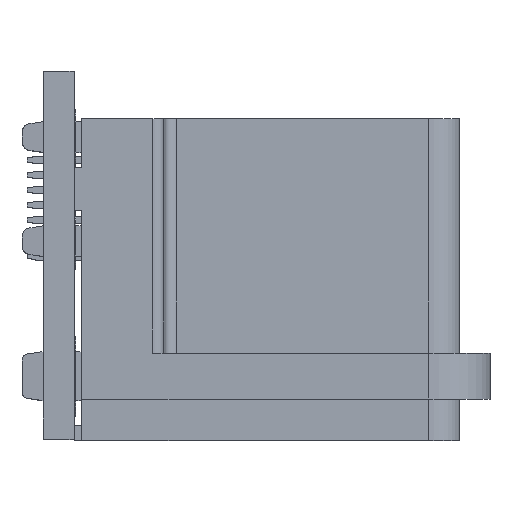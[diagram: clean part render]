
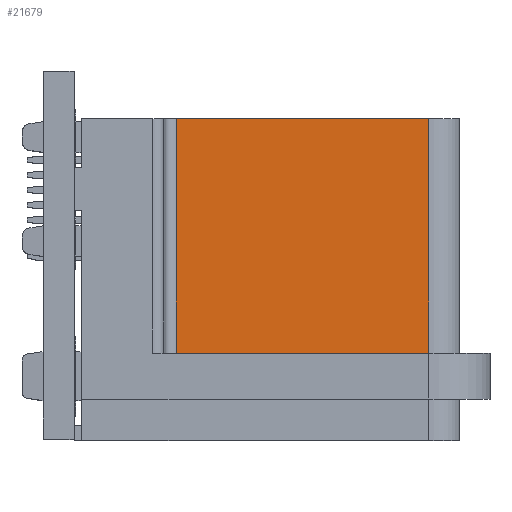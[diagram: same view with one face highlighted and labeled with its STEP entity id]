
A CAD part, top view. The second image highlights one B-rep face of the part: STEP entity #21679.
In plain terms, the highlighted planar face has unit normal (0, 0, 1).
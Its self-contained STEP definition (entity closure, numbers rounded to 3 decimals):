
#4336=DIRECTION('',(0.,1.,0.));
#4337=VECTOR('',#4336,7.65);
#4338=CARTESIAN_POINT('',(-3.387,-2.137,
15.359));
#4339=LINE('',#4338,#4337);
#4340=DIRECTION('',(1.,0.,0.));
#4341=VECTOR('',#4340,8.233);
#4342=CARTESIAN_POINT('',(-3.387,5.513,15.359));
#4343=LINE('',#4342,#4341);
#4344=DIRECTION('',(-1.,0.,0.));
#4345=VECTOR('',#4344,8.233);
#4346=CARTESIAN_POINT('',(4.846,-2.137,15.359));
#4347=LINE('',#4346,#4345);
#4348=DIRECTION('',(0.,1.,0.));
#4349=VECTOR('',#4348,7.65);
#4350=CARTESIAN_POINT('',(4.846,-2.137,15.359));
#4351=LINE('',#4350,#4349);
#12990=CARTESIAN_POINT('',(-3.387,5.513,
15.359));
#12991=VERTEX_POINT('',#12990);
#12992=CARTESIAN_POINT('',(4.846,5.513,15.359));
#12993=VERTEX_POINT('',#12992);
#13171=CARTESIAN_POINT('',(4.846,-2.137,
15.359));
#13172=VERTEX_POINT('',#13171);
#13173=CARTESIAN_POINT('',(-3.387,-2.137,
15.359));
#13174=VERTEX_POINT('',#13173);
#21667=CARTESIAN_POINT('',(0.729,1.688,
15.359));
#21668=DIRECTION('',(0.,0.,1.));
#21669=DIRECTION('',(-1.,0.,0.));
#21670=AXIS2_PLACEMENT_3D('',#21667,#21668,#21669);
#21671=PLANE('',#21670);
#21672=ORIENTED_EDGE('',*,*,#20858,.T.);
#21674=ORIENTED_EDGE('',*,*,#21673,.F.);
#21675=ORIENTED_EDGE('',*,*,#21603,.T.);
#21676=ORIENTED_EDGE('',*,*,#21662,.T.);
#21677=EDGE_LOOP('',(#21672,#21674,#21675,#21676));
#21678=FACE_OUTER_BOUND('',#21677,.F.);
#21679=ADVANCED_FACE('',(#21678),#21671,.T.);
#20858=EDGE_CURVE('',#12991,#12993,#4343,.T.);
#21603=EDGE_CURVE('',#13172,#13174,#4347,.T.);
#21662=EDGE_CURVE('',#13174,#12991,#4339,.T.);
#21673=EDGE_CURVE('',#13172,#12993,#4351,.T.);
